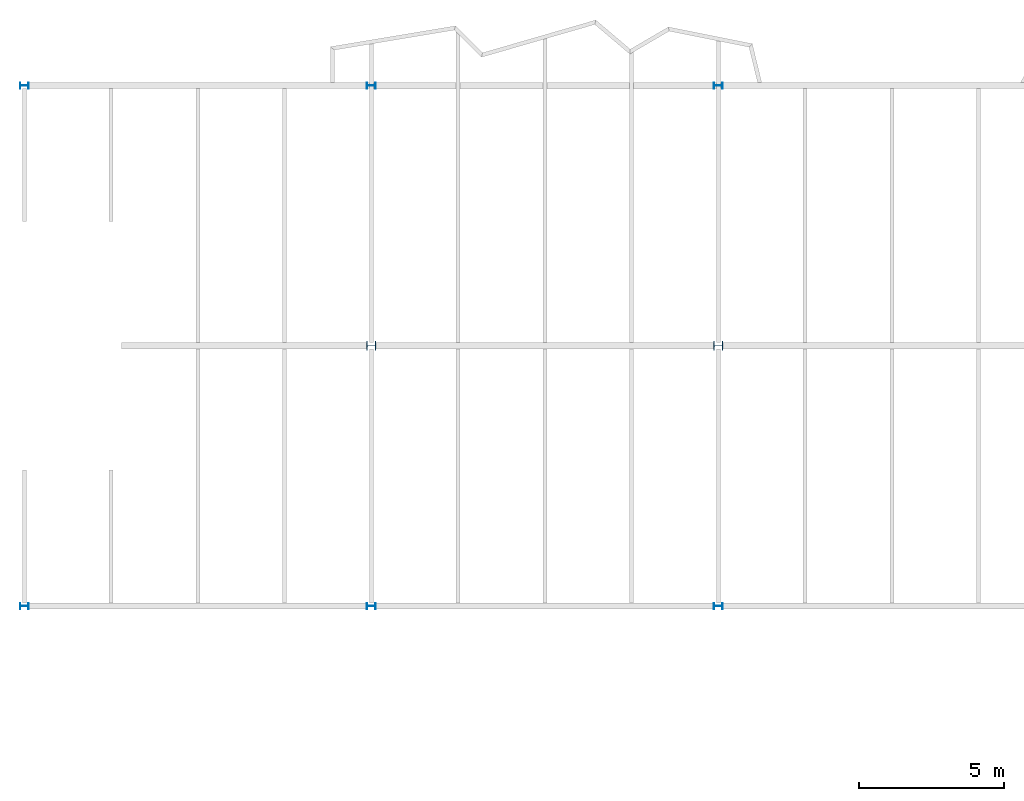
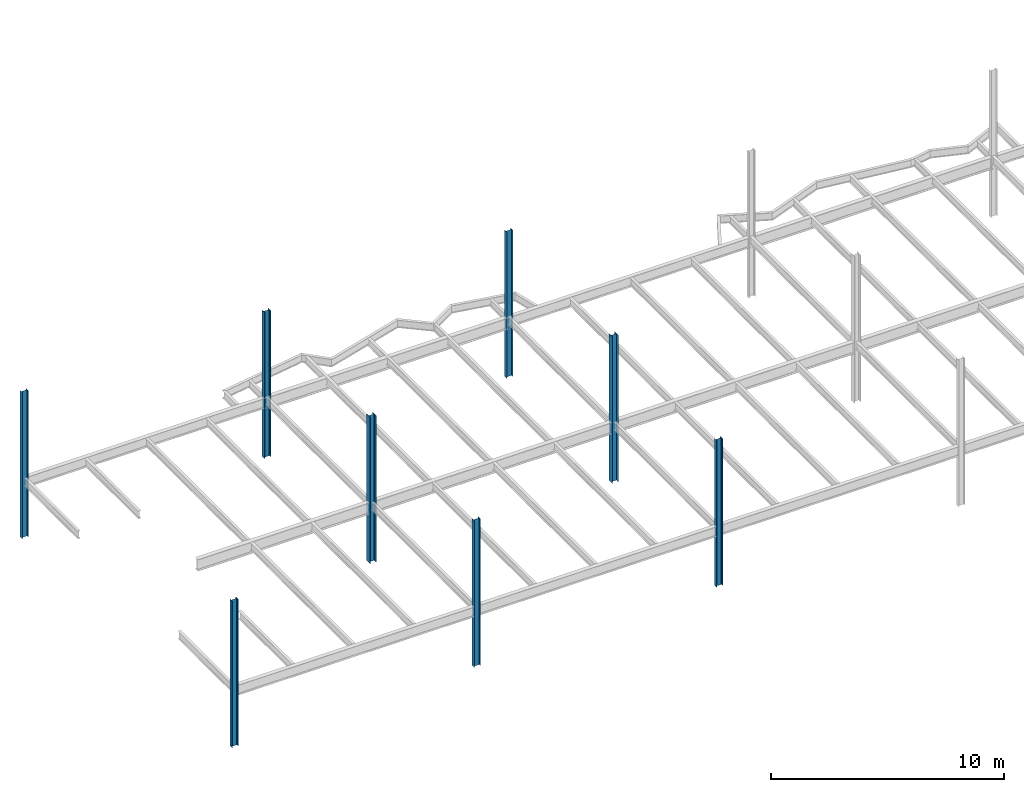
# One storey, part 1 of 23: 8 columns.
"""IFC2X3 building model written with IfcOpenShell, lengths in millimetres."""

import ifcopenshell
import ifcopenshell.guid

model = None  # the IFC model being written
_history = None  # IfcOwnerHistory: only IFC2X3 demands one
_inside = {}  # id of a spatial element -> (the spatial element, [elements in it])
_under = {}  # id of a project, library or spatial element -> (it, [spatial elements below it])
_declared = {}  # id of a project -> (the project, [libraries it declares])
_typed = {}  # id of a type object -> (the type object, [elements of that type])
_made_of = {}  # id of a material, layer set ... -> (it, [elements and type objects made of it])


def new_model(schema):
    """Start an empty IFC model of exactly this schema.

    Asked for "IFC4X3", IfcOpenShell would pick the latest addendum, in which some entities
    have other attributes; the version numbers below select the first issue.
    IFC2X3 requires an IfcOwnerHistory on every rooted entity: one is made here for all.
    """
    global model, _history
    if schema == "IFC4X3":
        model = ifcopenshell.file(schema_version=(4, 3, 0, 0))
    else:
        model = ifcopenshell.file(schema=schema)
    _inside.clear()
    _under.clear()
    _declared.clear()
    _typed.clear()
    _made_of.clear()
    _history = None
    if model.schema == "IFC2X3":
        org = make("IfcOrganization", Name="unknown")
        user = make(
            "IfcPersonAndOrganization",
            ThePerson=make("IfcPerson", FamilyName="unknown"),
            TheOrganization=org,
        )
        app = make(
            "IfcApplication",
            ApplicationDeveloper=org,
            Version="unknown",
            ApplicationFullName="unknown",
            ApplicationIdentifier="unknown",
        )
        _history = make(
            "IfcOwnerHistory",
            OwningUser=user,
            OwningApplication=app,
            ChangeAction="ADDED",
            CreationDate=0,
        )
    return model


def make(cls, **values):
    """One entity of the class cls with the attributes given. An attribute that is None is left unset."""
    return model.create_entity(
        cls, **{name: value for name, value in values.items() if value is not None}
    )


def rooted(cls, **values):
    """An entity with a GlobalId (a new one), such as an element, a storey or a relation."""
    return make(cls, GlobalId=ifcopenshell.guid.new(), OwnerHistory=_history, **values)


def si_unit(unit_type, name, prefix=None):
    """IfcSIUnit, for example si_unit("LENGTHUNIT", "METRE", prefix="MILLI")."""
    return make("IfcSIUnit", UnitType=unit_type, Prefix=prefix, Name=name)


def assignment(units):
    """IfcUnitAssignment: the units of a project."""
    return None if units is None else make("IfcUnitAssignment", Units=units)


def point(xyz):
    """IfcCartesianPoint."""
    return None if xyz is None else make("IfcCartesianPoint", Coordinates=xyz)


def direction(xyz):
    """IfcDirection."""
    return None if xyz is None else make("IfcDirection", DirectionRatios=xyz)


def frame(location, z_axis=None, x_axis=None):
    """IfcAxis2Placement3D, a coordinate frame: its origin and axes. An axis left out is left unset."""
    return make(
        "IfcAxis2Placement3D",
        Location=point(location),
        Axis=direction(z_axis),
        RefDirection=direction(x_axis),
    )


def origin():
    """The frame at (0, 0, 0) with its axes left unset."""
    return frame((0.0, 0.0, 0.0))


def place(relative_to, where):
    """IfcLocalPlacement: puts the frame where relative to a parent placement (None: the world)."""
    return make(
        "IfcLocalPlacement", PlacementRelTo=relative_to, RelativePlacement=where
    )


def context(
    kind, dimensions, precision=None, world=None, true_north=None, identifier=None
):
    """IfcGeometricRepresentationContext, for example the 3D "Model" context."""
    return make(
        "IfcGeometricRepresentationContext",
        ContextIdentifier=identifier,
        ContextType=kind,
        CoordinateSpaceDimension=dimensions,
        Precision=precision,
        WorldCoordinateSystem=world,
        TrueNorth=true_north,
    )


def project(units=None, contexts=None):
    """IfcProject with its units and contexts."""
    return rooted(
        "IfcProject",
        Name="project",
        RepresentationContexts=contexts,
        UnitsInContext=assignment(units),
    )


def spatial(cls, under=None, at=None, **own):
    """A site, building, storey or space (cls), placed at a placement, below another one or the project."""
    s = rooted(cls, ObjectPlacement=at, **own)
    if under is not None:
        _under.setdefault(under.id(), (under, []))[1].append(s)
    return s


def faces_of(points, faces, orient=None, outer=None):
    """IfcFace entities. A face is a list of loops; a loop is a list of indices into points, from 0.

    orient and outer hold one flag for each loop. By default every Orientation is true, the
    first loop of a face is its IfcFaceOuterBound and the others are IfcFaceBound.
    """
    made = []
    for i, loops in enumerate(faces):
        bounds = []
        for j, loop in enumerate(loops):
            is_outer = j == 0 if outer is None else outer[i][j]
            bounds.append(
                make(
                    "IfcFaceOuterBound" if is_outer else "IfcFaceBound",
                    Bound=make("IfcPolyLoop", Polygon=[points[k] for k in loop]),
                    Orientation=True if orient is None else orient[i][j],
                )
            )
        made.append(make("IfcFace", Bounds=bounds))
    return made


def faceted_brep(points, faces, orient=None, outer=None, voids=None):
    """IfcFacetedBrep: a solid bounded by flat faces; with voids (closed shells), ...WithVoids."""
    shared = [point(p) for p in points]
    hull = make("IfcClosedShell", CfsFaces=faces_of(shared, faces, orient, outer))
    if voids is None:
        return make("IfcFacetedBrep", Outer=hull)
    return make(
        "IfcFacetedBrepWithVoids",
        Outer=hull,
        Voids=[
            make(cls, CfsFaces=faces_of(shared, fs, o, b)) for cls, fs, o, b in voids
        ],
    )


def shape(context_of_items, identifier, shape_type, items):
    """IfcShapeRepresentation: the items that make up one representation, for example the "Body"."""
    return make(
        "IfcShapeRepresentation",
        ContextOfItems=context_of_items,
        RepresentationIdentifier=identifier,
        RepresentationType=shape_type,
        Items=items,
    )


def material(Name=None, Category=None):
    """IfcMaterial."""
    return make("IfcMaterial", Name=Name, Category=Category)


def made_of(thing, what):
    """Note that an element or type object is made of a material, layer set ...; save() writes the relation."""
    if what is not None:
        _made_of.setdefault(what.id(), (what, []))[1].append(thing)
    return thing


def element(
    cls,
    number,
    at=None,
    inside=None,
    cuts=None,
    type_object=None,
    material=None,
    context=None,
    identifier="Body",
    shape_type=None,
    held_by="IfcProductDefinitionShape",
    body=None,
    shapes=None,
    **own,
):
    """One element of the class cls, such as IfcWall. Its Tag is "e" and its number.

    at: its placement. inside: the storey or other place that contains it. cuts: it is an
    opening in that element (IfcRelVoidsElement). A single representation is given by context,
    identifier, shape_type and body (its items); several are given by shapes. held_by: the class
    of the entity that holds the representations. save() writes the other relations.
    """
    e = rooted(cls, Tag="e%d" % number, ObjectPlacement=at, **own)
    if body is not None:
        shapes = [shape(context, identifier, shape_type, body)]
    if shapes is not None:
        e.Representation = make(held_by, Representations=shapes)
    if inside is not None:
        _inside.setdefault(inside.id(), (inside, []))[1].append(e)
    if cuts is not None:
        rooted(
            "IfcRelVoidsElement", RelatingBuildingElement=cuts, RelatedOpeningElement=e
        )
    if type_object is not None:
        _typed.setdefault(type_object.id(), (type_object, []))[1].append(e)
    return made_of(e, material)


def aggregate(whole, parts):
    """IfcRelAggregates: a whole, such as a stair, and the parts it consists of."""
    return rooted("IfcRelAggregates", RelatingObject=whole, RelatedObjects=parts)


def save(model, path):
    """Write the relations noted so far, then the file.

    IfcRelAggregates (storeys below a building ...), IfcRelContainedInSpatialStructure (elements
    in a storey), IfcRelDefinesByType, IfcRelAssociatesMaterial and IfcRelDeclares: one each for
    every whole, place, type object, material and project.
    """
    for whole, parts in _under.values():
        aggregate(whole, parts)
    for where, things in _inside.values():
        rooted(
            "IfcRelContainedInSpatialStructure",
            RelatedElements=things,
            RelatingStructure=where,
        )
    for kind, things in _typed.values():
        rooted("IfcRelDefinesByType", RelatedObjects=things, RelatingType=kind)
    for what, things in _made_of.values():
        rooted("IfcRelAssociatesMaterial", RelatedObjects=things, RelatingMaterial=what)
    for by, libraries in _declared.values():
        rooted("IfcRelDeclares", RelatingContext=by, RelatedDefinitions=libraries)
    model.write(path)


model = new_model("IFC2X3")

# Units and contexts
context_of_model = context(None, 3, precision=1e-05, world=origin())
ifc_project = project(units=[si_unit("LENGTHUNIT", "METRE", prefix="MILLI")], contexts=[context_of_model])

# Building, storey
building = spatial("IfcBuilding", under=ifc_project, Name="Building", CompositionType="ELEMENT")
storey = spatial("IfcBuildingStorey", under=building, Name="FL5-FRM", CompositionType="ELEMENT")

# Columns
ifc_material_1 = material(Name="A992")
column_1_placement = place(None, origin())
element("IfcColumn", 1, at=column_1_placement, inside=storey, material=ifc_material_1, Name="Column46", context=context_of_model, shape_type="Brep", body=[
    faceted_brep([(-47847.0, 35898.0, 14719.2), (-47847.0, 36102.0, 14719.2), (-47847.0, 36102.0, 22373.0), (-47847.0, 35898.0, 22373.0), (-47861.6, 36102.0, 14719.2), (-47861.6, 36102.0, 22373.0), (-47861.6, 36016.9, 14719.2), (-47861.6, 36016.9, 22373.0), (-47862.0, 36013.7, 14719.2), (-47862.0, 36013.7, 22373.0), (-47863.3, 36010.6, 14719.2), (-47863.3, 36010.6, 22373.0), (-47865.3, 36008.0, 14719.2), (-47865.3, 36008.0, 22373.0), (-47868.0, 36006.0, 14719.2), (-47868.0, 36006.0, 22373.0), (-47871.0, 36004.7, 14719.2), (-47871.0, 36004.7, 22373.0), (-47874.3, 36004.3, 14719.2), (-47874.3, 36004.3, 22373.0), (-48125.7, 36004.3, 14719.2), (-48125.7, 36004.3, 22373.0), (-48129.0, 36004.7, 14719.2), (-48129.0, 36004.7, 22373.0), (-48132.0, 36006.0, 14719.2), (-48132.0, 36006.0, 22373.0), (-48134.7, 36008.0, 14719.2), (-48134.7, 36008.0, 22373.0), (-48136.7, 36010.6, 14719.2), (-48136.7, 36010.6, 22373.0), (-48138.0, 36013.7, 14719.2), (-48138.0, 36013.7, 22373.0), (-48138.4, 36016.9, 14719.2), (-48138.4, 36016.9, 22373.0), (-48138.4, 36102.0, 14719.2), (-48138.4, 36102.0, 22373.0), (-48153.0, 36102.0, 14719.2), (-48153.0, 36102.0, 22373.0), (-48153.0, 35898.0, 14719.2), (-48153.0, 35898.0, 22373.0), (-48138.4, 35898.0, 14719.2), (-48138.4, 35898.0, 22373.0), (-48138.4, 35983.1, 14719.2), (-48138.4, 35983.1, 22373.0), (-48138.0, 35986.3, 14719.2), (-48138.0, 35986.3, 22373.0), (-48136.7, 35989.4, 14719.2), (-48136.7, 35989.4, 22373.0), (-48134.7, 35992.0, 14719.2), (-48134.7, 35992.0, 22373.0), (-48132.0, 35994.0, 14719.2), (-48132.0, 35994.0, 22373.0), (-48129.0, 35995.3, 14719.2), (-48129.0, 35995.3, 22373.0), (-48125.7, 35995.8, 14719.2), (-48125.7, 35995.8, 22373.0), (-47874.3, 35995.8, 14719.2), (-47874.3, 35995.8, 22373.0), (-47871.0, 35995.3, 14719.2), (-47871.0, 35995.3, 22373.0), (-47868.0, 35994.0, 14719.2), (-47868.0, 35994.0, 22373.0), (-47865.3, 35992.0, 14719.2), (-47865.3, 35992.0, 22373.0), (-47863.3, 35989.4, 14719.2), (-47863.3, 35989.4, 22373.0), (-47862.0, 35986.3, 14719.2), (-47862.0, 35986.3, 22373.0), (-47861.6, 35983.1, 14719.2), (-47861.6, 35983.1, 22373.0), (-47861.6, 35898.0, 14719.2), (-47861.6, 35898.0, 22373.0)], [[[0, 1, 2, 3]], [[1, 4, 5, 2]], [[4, 6, 7, 5]], [[6, 8, 9, 7]], [[8, 10, 11, 9]], [[10, 12, 13, 11]], [[12, 14, 15, 13]], [[14, 16, 17, 15]], [[16, 18, 19, 17]], [[18, 20, 21, 19]], [[20, 22, 23, 21]], [[22, 24, 25, 23]], [[24, 26, 27, 25]], [[26, 28, 29, 27]], [[28, 30, 31, 29]], [[30, 32, 33, 31]], [[32, 34, 35, 33]], [[34, 36, 37, 35]], [[36, 38, 39, 37]], [[38, 40, 41, 39]], [[40, 42, 43, 41]], [[42, 44, 45, 43]], [[44, 46, 47, 45]], [[46, 48, 49, 47]], [[48, 50, 51, 49]], [[50, 52, 53, 51]], [[52, 54, 55, 53]], [[54, 56, 57, 55]], [[56, 58, 59, 57]], [[58, 60, 61, 59]], [[60, 62, 63, 61]], [[62, 64, 65, 63]], [[64, 66, 67, 65]], [[66, 68, 69, 67]], [[68, 70, 71, 69]], [[70, 0, 3, 71]], [[0, 70, 68, 66, 64, 62, 60, 58, 56, 54, 52, 50, 48, 46, 44, 42, 40, 38, 36, 34, 32, 30, 28, 26, 24, 22, 20, 18, 16, 14, 12, 10, 8, 6, 4, 1]], [[3, 2, 5, 7, 9, 11, 13, 15, 17, 19, 21, 23, 25, 27, 29, 31, 33, 35, 37, 39, 41, 43, 45, 47, 49, 51, 53, 55, 57, 59, 61, 63, 65, 67, 69, 71]]]),
])
ifc_material_2 = material(Name="A992")
column_2_placement = place(None, origin())
element("IfcColumn", 2, at=column_2_placement, inside=storey, material=ifc_material_2, Name="Column273", context=context_of_model, shape_type="Brep", body=[
    faceted_brep([(-47846.0, 26847.5, 14694.2), (-47846.0, 27152.5, 14694.2), (-47846.0, 27152.5, 22373.0), (-47846.0, 26847.5, 22373.0), (-47861.4, 27152.5, 14694.2), (-47861.4, 27152.5, 22373.0), (-47861.4, 27020.1, 14694.2), (-47861.4, 27020.1, 22373.0), (-47861.9, 27016.2, 14694.2), (-47861.9, 27016.2, 22373.0), (-47863.4, 27012.5, 14694.2), (-47863.4, 27012.5, 22373.0), (-47865.9, 27009.4, 14694.2), (-47865.9, 27009.4, 22373.0), (-47869.0, 27007.0, 14694.2), (-47869.0, 27007.0, 22373.0), (-47872.7, 27005.5, 14694.2), (-47872.7, 27005.5, 22373.0), (-47876.6, 27004.9, 14694.2), (-47876.6, 27004.9, 22373.0), (-48123.4, 27004.9, 14694.2), (-48123.4, 27004.9, 22373.0), (-48127.3, 27005.5, 14694.2), (-48127.3, 27005.5, 22373.0), (-48131.0, 27007.0, 14694.2), (-48131.0, 27007.0, 22373.0), (-48134.1, 27009.4, 14694.2), (-48134.1, 27009.4, 22373.0), (-48136.6, 27012.5, 14694.2), (-48136.6, 27012.5, 22373.0), (-48138.1, 27016.2, 14694.2), (-48138.1, 27016.2, 22373.0), (-48138.6, 27020.1, 14694.2), (-48138.6, 27020.1, 22373.0), (-48138.6, 27152.5, 14694.2), (-48138.6, 27152.5, 22373.0), (-48154.0, 27152.5, 14694.2), (-48154.0, 27152.5, 22373.0), (-48154.0, 26847.5, 14694.2), (-48154.0, 26847.5, 22373.0), (-48138.6, 26847.5, 14694.2), (-48138.6, 26847.5, 22373.0), (-48138.6, 26979.9, 14694.2), (-48138.6, 26979.9, 22373.0), (-48138.1, 26983.8, 14694.2), (-48138.1, 26983.8, 22373.0), (-48136.6, 26987.5, 14694.2), (-48136.6, 26987.5, 22373.0), (-48134.1, 26990.6, 14694.2), (-48134.1, 26990.6, 22373.0), (-48131.0, 26993.0, 14694.2), (-48131.0, 26993.0, 22373.0), (-48127.3, 26994.5, 14694.2), (-48127.3, 26994.5, 22373.0), (-48123.4, 26995.1, 14694.2), (-48123.4, 26995.1, 22373.0), (-47876.6, 26995.1, 14694.2), (-47876.6, 26995.1, 22373.0), (-47872.7, 26994.5, 14694.2), (-47872.7, 26994.5, 22373.0), (-47869.0, 26993.0, 14694.2), (-47869.0, 26993.0, 22373.0), (-47865.9, 26990.6, 14694.2), (-47865.9, 26990.6, 22373.0), (-47863.4, 26987.5, 14694.2), (-47863.4, 26987.5, 22373.0), (-47861.9, 26983.8, 14694.2), (-47861.9, 26983.8, 22373.0), (-47861.4, 26979.9, 14694.2), (-47861.4, 26979.9, 22373.0), (-47861.4, 26847.5, 14694.2), (-47861.4, 26847.5, 22373.0)], [[[0, 1, 2, 3]], [[1, 4, 5, 2]], [[4, 6, 7, 5]], [[6, 8, 9, 7]], [[8, 10, 11, 9]], [[10, 12, 13, 11]], [[12, 14, 15, 13]], [[14, 16, 17, 15]], [[16, 18, 19, 17]], [[18, 20, 21, 19]], [[20, 22, 23, 21]], [[22, 24, 25, 23]], [[24, 26, 27, 25]], [[26, 28, 29, 27]], [[28, 30, 31, 29]], [[30, 32, 33, 31]], [[32, 34, 35, 33]], [[34, 36, 37, 35]], [[36, 38, 39, 37]], [[38, 40, 41, 39]], [[40, 42, 43, 41]], [[42, 44, 45, 43]], [[44, 46, 47, 45]], [[46, 48, 49, 47]], [[48, 50, 51, 49]], [[50, 52, 53, 51]], [[52, 54, 55, 53]], [[54, 56, 57, 55]], [[56, 58, 59, 57]], [[58, 60, 61, 59]], [[60, 62, 63, 61]], [[62, 64, 65, 63]], [[64, 66, 67, 65]], [[66, 68, 69, 67]], [[68, 70, 71, 69]], [[70, 0, 3, 71]], [[0, 70, 68, 66, 64, 62, 60, 58, 56, 54, 52, 50, 48, 46, 44, 42, 40, 38, 36, 34, 32, 30, 28, 26, 24, 22, 20, 18, 16, 14, 12, 10, 8, 6, 4, 1]], [[3, 2, 5, 7, 9, 11, 13, 15, 17, 19, 21, 23, 25, 27, 29, 31, 33, 35, 37, 39, 41, 43, 45, 47, 49, 51, 53, 55, 57, 59, 61, 63, 65, 67, 69, 71]]]),
])
ifc_material_3 = material(Name="A992")
column_3_placement = place(None, origin())
element("IfcColumn", 3, at=column_3_placement, inside=storey, material=ifc_material_3, Name="Column275", context=context_of_model, shape_type="Brep", body=[
    faceted_brep([(-47847.0, 17898.0, 14694.2), (-47847.0, 18102.0, 14694.2), (-47847.0, 18102.0, 22373.0), (-47847.0, 17898.0, 22373.0), (-47861.6, 18102.0, 14694.2), (-47861.6, 18102.0, 22373.0), (-47861.6, 18016.9, 14694.2), (-47861.6, 18016.9, 22373.0), (-47862.0, 18013.7, 14694.2), (-47862.0, 18013.7, 22373.0), (-47863.3, 18010.6, 14694.2), (-47863.3, 18010.6, 22373.0), (-47865.3, 18008.0, 14694.2), (-47865.3, 18008.0, 22373.0), (-47868.0, 18006.0, 14694.2), (-47868.0, 18006.0, 22373.0), (-47871.0, 18004.7, 14694.2), (-47871.0, 18004.7, 22373.0), (-47874.3, 18004.3, 14694.2), (-47874.3, 18004.3, 22373.0), (-48125.7, 18004.3, 14694.2), (-48125.7, 18004.3, 22373.0), (-48129.0, 18004.7, 14694.2), (-48129.0, 18004.7, 22373.0), (-48132.0, 18006.0, 14694.2), (-48132.0, 18006.0, 22373.0), (-48134.7, 18008.0, 14694.2), (-48134.7, 18008.0, 22373.0), (-48136.7, 18010.6, 14694.2), (-48136.7, 18010.6, 22373.0), (-48138.0, 18013.7, 14694.2), (-48138.0, 18013.7, 22373.0), (-48138.4, 18016.9, 14694.2), (-48138.4, 18016.9, 22373.0), (-48138.4, 18102.0, 14694.2), (-48138.4, 18102.0, 22373.0), (-48153.0, 18102.0, 14694.2), (-48153.0, 18102.0, 22373.0), (-48153.0, 17898.0, 14694.2), (-48153.0, 17898.0, 22373.0), (-48138.4, 17898.0, 14694.2), (-48138.4, 17898.0, 22373.0), (-48138.4, 17983.1, 14694.2), (-48138.4, 17983.1, 22373.0), (-48138.0, 17986.3, 14694.2), (-48138.0, 17986.3, 22373.0), (-48136.7, 17989.4, 14694.2), (-48136.7, 17989.4, 22373.0), (-48134.7, 17992.0, 14694.2), (-48134.7, 17992.0, 22373.0), (-48132.0, 17994.0, 14694.2), (-48132.0, 17994.0, 22373.0), (-48129.0, 17995.3, 14694.2), (-48129.0, 17995.3, 22373.0), (-48125.7, 17995.8, 14694.2), (-48125.7, 17995.8, 22373.0), (-47874.3, 17995.8, 14694.2), (-47874.3, 17995.8, 22373.0), (-47871.0, 17995.3, 14694.2), (-47871.0, 17995.3, 22373.0), (-47868.0, 17994.0, 14694.2), (-47868.0, 17994.0, 22373.0), (-47865.3, 17992.0, 14694.2), (-47865.3, 17992.0, 22373.0), (-47863.3, 17989.4, 14694.2), (-47863.3, 17989.4, 22373.0), (-47862.0, 17986.3, 14694.2), (-47862.0, 17986.3, 22373.0), (-47861.6, 17983.1, 14694.2), (-47861.6, 17983.1, 22373.0), (-47861.6, 17898.0, 14694.2), (-47861.6, 17898.0, 22373.0)], [[[0, 1, 2, 3]], [[1, 4, 5, 2]], [[4, 6, 7, 5]], [[6, 8, 9, 7]], [[8, 10, 11, 9]], [[10, 12, 13, 11]], [[12, 14, 15, 13]], [[14, 16, 17, 15]], [[16, 18, 19, 17]], [[18, 20, 21, 19]], [[20, 22, 23, 21]], [[22, 24, 25, 23]], [[24, 26, 27, 25]], [[26, 28, 29, 27]], [[28, 30, 31, 29]], [[30, 32, 33, 31]], [[32, 34, 35, 33]], [[34, 36, 37, 35]], [[36, 38, 39, 37]], [[38, 40, 41, 39]], [[40, 42, 43, 41]], [[42, 44, 45, 43]], [[44, 46, 47, 45]], [[46, 48, 49, 47]], [[48, 50, 51, 49]], [[50, 52, 53, 51]], [[52, 54, 55, 53]], [[54, 56, 57, 55]], [[56, 58, 59, 57]], [[58, 60, 61, 59]], [[60, 62, 63, 61]], [[62, 64, 65, 63]], [[64, 66, 67, 65]], [[66, 68, 69, 67]], [[68, 70, 71, 69]], [[70, 0, 3, 71]], [[0, 70, 68, 66, 64, 62, 60, 58, 56, 54, 52, 50, 48, 46, 44, 42, 40, 38, 36, 34, 32, 30, 28, 26, 24, 22, 20, 18, 16, 14, 12, 10, 8, 6, 4, 1]], [[3, 2, 5, 7, 9, 11, 13, 15, 17, 19, 21, 23, 25, 27, 29, 31, 33, 35, 37, 39, 41, 43, 45, 47, 49, 51, 53, 55, 57, 59, 61, 63, 65, 67, 69, 71]]]),
])
ifc_material_4 = material(Name="A992")
column_4_placement = place(None, origin())
element("IfcColumn", 4, at=column_4_placement, inside=storey, material=ifc_material_4, Name="Column277", context=context_of_model, shape_type="Brep", body=[
    faceted_brep([(-35847.0, 35898.0, 14719.2), (-35847.0, 36102.0, 14719.2), (-35847.0, 36102.0, 22373.0), (-35847.0, 35898.0, 22373.0), (-35861.6, 36102.0, 14719.2), (-35861.6, 36102.0, 22373.0), (-35861.6, 36016.9, 14719.2), (-35861.6, 36016.9, 22373.0), (-35862.0, 36013.7, 14719.2), (-35862.0, 36013.7, 22373.0), (-35863.3, 36010.6, 14719.2), (-35863.3, 36010.6, 22373.0), (-35865.3, 36008.0, 14719.2), (-35865.3, 36008.0, 22373.0), (-35868.0, 36006.0, 14719.2), (-35868.0, 36006.0, 22373.0), (-35871.0, 36004.7, 14719.2), (-35871.0, 36004.7, 22373.0), (-35874.3, 36004.3, 14719.2), (-35874.3, 36004.3, 22373.0), (-36125.7, 36004.3, 14719.2), (-36125.7, 36004.3, 22373.0), (-36129.0, 36004.7, 14719.2), (-36129.0, 36004.7, 22373.0), (-36132.0, 36006.0, 14719.2), (-36132.0, 36006.0, 22373.0), (-36134.7, 36008.0, 14719.2), (-36134.7, 36008.0, 22373.0), (-36136.7, 36010.6, 14719.2), (-36136.7, 36010.6, 22373.0), (-36138.0, 36013.7, 14719.2), (-36138.0, 36013.7, 22373.0), (-36138.4, 36016.9, 14719.2), (-36138.4, 36016.9, 22373.0), (-36138.4, 36102.0, 14719.2), (-36138.4, 36102.0, 22373.0), (-36153.0, 36102.0, 14719.2), (-36153.0, 36102.0, 22373.0), (-36153.0, 35898.0, 14719.2), (-36153.0, 35898.0, 22373.0), (-36138.4, 35898.0, 14719.2), (-36138.4, 35898.0, 22373.0), (-36138.4, 35983.1, 14719.2), (-36138.4, 35983.1, 22373.0), (-36138.0, 35986.3, 14719.2), (-36138.0, 35986.3, 22373.0), (-36136.7, 35989.4, 14719.2), (-36136.7, 35989.4, 22373.0), (-36134.7, 35992.0, 14719.2), (-36134.7, 35992.0, 22373.0), (-36132.0, 35994.0, 14719.2), (-36132.0, 35994.0, 22373.0), (-36129.0, 35995.3, 14719.2), (-36129.0, 35995.3, 22373.0), (-36125.7, 35995.8, 14719.2), (-36125.7, 35995.8, 22373.0), (-35874.3, 35995.8, 14719.2), (-35874.3, 35995.8, 22373.0), (-35871.0, 35995.3, 14719.2), (-35871.0, 35995.3, 22373.0), (-35868.0, 35994.0, 14719.2), (-35868.0, 35994.0, 22373.0), (-35865.3, 35992.0, 14719.2), (-35865.3, 35992.0, 22373.0), (-35863.3, 35989.4, 14719.2), (-35863.3, 35989.4, 22373.0), (-35862.0, 35986.3, 14719.2), (-35862.0, 35986.3, 22373.0), (-35861.6, 35983.1, 14719.2), (-35861.6, 35983.1, 22373.0), (-35861.6, 35898.0, 14719.2), (-35861.6, 35898.0, 22373.0)], [[[0, 1, 2, 3]], [[1, 4, 5, 2]], [[4, 6, 7, 5]], [[6, 8, 9, 7]], [[8, 10, 11, 9]], [[10, 12, 13, 11]], [[12, 14, 15, 13]], [[14, 16, 17, 15]], [[16, 18, 19, 17]], [[18, 20, 21, 19]], [[20, 22, 23, 21]], [[22, 24, 25, 23]], [[24, 26, 27, 25]], [[26, 28, 29, 27]], [[28, 30, 31, 29]], [[30, 32, 33, 31]], [[32, 34, 35, 33]], [[34, 36, 37, 35]], [[36, 38, 39, 37]], [[38, 40, 41, 39]], [[40, 42, 43, 41]], [[42, 44, 45, 43]], [[44, 46, 47, 45]], [[46, 48, 49, 47]], [[48, 50, 51, 49]], [[50, 52, 53, 51]], [[52, 54, 55, 53]], [[54, 56, 57, 55]], [[56, 58, 59, 57]], [[58, 60, 61, 59]], [[60, 62, 63, 61]], [[62, 64, 65, 63]], [[64, 66, 67, 65]], [[66, 68, 69, 67]], [[68, 70, 71, 69]], [[70, 0, 3, 71]], [[0, 70, 68, 66, 64, 62, 60, 58, 56, 54, 52, 50, 48, 46, 44, 42, 40, 38, 36, 34, 32, 30, 28, 26, 24, 22, 20, 18, 16, 14, 12, 10, 8, 6, 4, 1]], [[3, 2, 5, 7, 9, 11, 13, 15, 17, 19, 21, 23, 25, 27, 29, 31, 33, 35, 37, 39, 41, 43, 45, 47, 49, 51, 53, 55, 57, 59, 61, 63, 65, 67, 69, 71]]]),
])
ifc_material_5 = material(Name="A992")
column_5_placement = place(None, origin())
element("IfcColumn", 5, at=column_5_placement, inside=storey, material=ifc_material_5, Name="Column279", context=context_of_model, shape_type="Brep", body=[
    faceted_brep([(-35846.0, 26847.5, 14694.2), (-35846.0, 27152.5, 14694.2), (-35846.0, 27152.5, 22373.0), (-35846.0, 26847.5, 22373.0), (-35861.4, 27152.5, 14694.2), (-35861.4, 27152.5, 22373.0), (-35861.4, 27020.1, 14694.2), (-35861.4, 27020.1, 22373.0), (-35861.9, 27016.2, 14694.2), (-35861.9, 27016.2, 22373.0), (-35863.4, 27012.5, 14694.2), (-35863.4, 27012.5, 22373.0), (-35865.9, 27009.4, 14694.2), (-35865.9, 27009.4, 22373.0), (-35869.0, 27007.0, 14694.2), (-35869.0, 27007.0, 22373.0), (-35872.7, 27005.5, 14694.2), (-35872.7, 27005.5, 22373.0), (-35876.6, 27004.9, 14694.2), (-35876.6, 27004.9, 22373.0), (-36123.4, 27004.9, 14694.2), (-36123.4, 27004.9, 22373.0), (-36127.3, 27005.5, 14694.2), (-36127.3, 27005.5, 22373.0), (-36131.0, 27007.0, 14694.2), (-36131.0, 27007.0, 22373.0), (-36134.1, 27009.4, 14694.2), (-36134.1, 27009.4, 22373.0), (-36136.6, 27012.5, 14694.2), (-36136.6, 27012.5, 22373.0), (-36138.1, 27016.2, 14694.2), (-36138.1, 27016.2, 22373.0), (-36138.6, 27020.1, 14694.2), (-36138.6, 27020.1, 22373.0), (-36138.6, 27152.5, 14694.2), (-36138.6, 27152.5, 22373.0), (-36154.0, 27152.5, 14694.2), (-36154.0, 27152.5, 22373.0), (-36154.0, 26847.5, 14694.2), (-36154.0, 26847.5, 22373.0), (-36138.6, 26847.5, 14694.2), (-36138.6, 26847.5, 22373.0), (-36138.6, 26979.9, 14694.2), (-36138.6, 26979.9, 22373.0), (-36138.1, 26983.8, 14694.2), (-36138.1, 26983.8, 22373.0), (-36136.6, 26987.5, 14694.2), (-36136.6, 26987.5, 22373.0), (-36134.1, 26990.6, 14694.2), (-36134.1, 26990.6, 22373.0), (-36131.0, 26993.0, 14694.2), (-36131.0, 26993.0, 22373.0), (-36127.3, 26994.5, 14694.2), (-36127.3, 26994.5, 22373.0), (-36123.4, 26995.1, 14694.2), (-36123.4, 26995.1, 22373.0), (-35876.6, 26995.1, 14694.2), (-35876.6, 26995.1, 22373.0), (-35872.7, 26994.5, 14694.2), (-35872.7, 26994.5, 22373.0), (-35869.0, 26993.0, 14694.2), (-35869.0, 26993.0, 22373.0), (-35865.9, 26990.6, 14694.2), (-35865.9, 26990.6, 22373.0), (-35863.4, 26987.5, 14694.2), (-35863.4, 26987.5, 22373.0), (-35861.9, 26983.8, 14694.2), (-35861.9, 26983.8, 22373.0), (-35861.4, 26979.9, 14694.2), (-35861.4, 26979.9, 22373.0), (-35861.4, 26847.5, 14694.2), (-35861.4, 26847.5, 22373.0)], [[[0, 1, 2, 3]], [[1, 4, 5, 2]], [[4, 6, 7, 5]], [[6, 8, 9, 7]], [[8, 10, 11, 9]], [[10, 12, 13, 11]], [[12, 14, 15, 13]], [[14, 16, 17, 15]], [[16, 18, 19, 17]], [[18, 20, 21, 19]], [[20, 22, 23, 21]], [[22, 24, 25, 23]], [[24, 26, 27, 25]], [[26, 28, 29, 27]], [[28, 30, 31, 29]], [[30, 32, 33, 31]], [[32, 34, 35, 33]], [[34, 36, 37, 35]], [[36, 38, 39, 37]], [[38, 40, 41, 39]], [[40, 42, 43, 41]], [[42, 44, 45, 43]], [[44, 46, 47, 45]], [[46, 48, 49, 47]], [[48, 50, 51, 49]], [[50, 52, 53, 51]], [[52, 54, 55, 53]], [[54, 56, 57, 55]], [[56, 58, 59, 57]], [[58, 60, 61, 59]], [[60, 62, 63, 61]], [[62, 64, 65, 63]], [[64, 66, 67, 65]], [[66, 68, 69, 67]], [[68, 70, 71, 69]], [[70, 0, 3, 71]], [[0, 70, 68, 66, 64, 62, 60, 58, 56, 54, 52, 50, 48, 46, 44, 42, 40, 38, 36, 34, 32, 30, 28, 26, 24, 22, 20, 18, 16, 14, 12, 10, 8, 6, 4, 1]], [[3, 2, 5, 7, 9, 11, 13, 15, 17, 19, 21, 23, 25, 27, 29, 31, 33, 35, 37, 39, 41, 43, 45, 47, 49, 51, 53, 55, 57, 59, 61, 63, 65, 67, 69, 71]]]),
])
ifc_material_6 = material(Name="A992")
column_6_placement = place(None, origin())
element("IfcColumn", 6, at=column_6_placement, inside=storey, material=ifc_material_6, Name="Column281", context=context_of_model, shape_type="Brep", body=[
    faceted_brep([(-35847.0, 17898.0, 14694.2), (-35847.0, 18102.0, 14694.2), (-35847.0, 18102.0, 22373.0), (-35847.0, 17898.0, 22373.0), (-35861.6, 18102.0, 14694.2), (-35861.6, 18102.0, 22373.0), (-35861.6, 18016.9, 14694.2), (-35861.6, 18016.9, 22373.0), (-35862.0, 18013.7, 14694.2), (-35862.0, 18013.7, 22373.0), (-35863.3, 18010.6, 14694.2), (-35863.3, 18010.6, 22373.0), (-35865.3, 18008.0, 14694.2), (-35865.3, 18008.0, 22373.0), (-35868.0, 18006.0, 14694.2), (-35868.0, 18006.0, 22373.0), (-35871.0, 18004.7, 14694.2), (-35871.0, 18004.7, 22373.0), (-35874.3, 18004.3, 14694.2), (-35874.3, 18004.3, 22373.0), (-36125.7, 18004.3, 14694.2), (-36125.7, 18004.3, 22373.0), (-36129.0, 18004.7, 14694.2), (-36129.0, 18004.7, 22373.0), (-36132.0, 18006.0, 14694.2), (-36132.0, 18006.0, 22373.0), (-36134.7, 18008.0, 14694.2), (-36134.7, 18008.0, 22373.0), (-36136.7, 18010.6, 14694.2), (-36136.7, 18010.6, 22373.0), (-36138.0, 18013.7, 14694.2), (-36138.0, 18013.7, 22373.0), (-36138.4, 18016.9, 14694.2), (-36138.4, 18016.9, 22373.0), (-36138.4, 18102.0, 14694.2), (-36138.4, 18102.0, 22373.0), (-36153.0, 18102.0, 14694.2), (-36153.0, 18102.0, 22373.0), (-36153.0, 17898.0, 14694.2), (-36153.0, 17898.0, 22373.0), (-36138.4, 17898.0, 14694.2), (-36138.4, 17898.0, 22373.0), (-36138.4, 17983.1, 14694.2), (-36138.4, 17983.1, 22373.0), (-36138.0, 17986.3, 14694.2), (-36138.0, 17986.3, 22373.0), (-36136.7, 17989.4, 14694.2), (-36136.7, 17989.4, 22373.0), (-36134.7, 17992.0, 14694.2), (-36134.7, 17992.0, 22373.0), (-36132.0, 17994.0, 14694.2), (-36132.0, 17994.0, 22373.0), (-36129.0, 17995.3, 14694.2), (-36129.0, 17995.3, 22373.0), (-36125.7, 17995.8, 14694.2), (-36125.7, 17995.8, 22373.0), (-35874.3, 17995.8, 14694.2), (-35874.3, 17995.8, 22373.0), (-35871.0, 17995.3, 14694.2), (-35871.0, 17995.3, 22373.0), (-35868.0, 17994.0, 14694.2), (-35868.0, 17994.0, 22373.0), (-35865.3, 17992.0, 14694.2), (-35865.3, 17992.0, 22373.0), (-35863.3, 17989.4, 14694.2), (-35863.3, 17989.4, 22373.0), (-35862.0, 17986.3, 14694.2), (-35862.0, 17986.3, 22373.0), (-35861.6, 17983.1, 14694.2), (-35861.6, 17983.1, 22373.0), (-35861.6, 17898.0, 14694.2), (-35861.6, 17898.0, 22373.0)], [[[0, 1, 2, 3]], [[1, 4, 5, 2]], [[4, 6, 7, 5]], [[6, 8, 9, 7]], [[8, 10, 11, 9]], [[10, 12, 13, 11]], [[12, 14, 15, 13]], [[14, 16, 17, 15]], [[16, 18, 19, 17]], [[18, 20, 21, 19]], [[20, 22, 23, 21]], [[22, 24, 25, 23]], [[24, 26, 27, 25]], [[26, 28, 29, 27]], [[28, 30, 31, 29]], [[30, 32, 33, 31]], [[32, 34, 35, 33]], [[34, 36, 37, 35]], [[36, 38, 39, 37]], [[38, 40, 41, 39]], [[40, 42, 43, 41]], [[42, 44, 45, 43]], [[44, 46, 47, 45]], [[46, 48, 49, 47]], [[48, 50, 51, 49]], [[50, 52, 53, 51]], [[52, 54, 55, 53]], [[54, 56, 57, 55]], [[56, 58, 59, 57]], [[58, 60, 61, 59]], [[60, 62, 63, 61]], [[62, 64, 65, 63]], [[64, 66, 67, 65]], [[66, 68, 69, 67]], [[68, 70, 71, 69]], [[70, 0, 3, 71]], [[0, 70, 68, 66, 64, 62, 60, 58, 56, 54, 52, 50, 48, 46, 44, 42, 40, 38, 36, 34, 32, 30, 28, 26, 24, 22, 20, 18, 16, 14, 12, 10, 8, 6, 4, 1]], [[3, 2, 5, 7, 9, 11, 13, 15, 17, 19, 21, 23, 25, 27, 29, 31, 33, 35, 37, 39, 41, 43, 45, 47, 49, 51, 53, 55, 57, 59, 61, 63, 65, 67, 69, 71]]]),
])
ifc_material_7 = material(Name="A992")
column_7_placement = place(None, origin())
element("IfcColumn", 7, at=column_7_placement, inside=storey, material=ifc_material_7, Name="Column295", context=context_of_model, shape_type="Brep", body=[
    faceted_brep([(-59848.5, 35898.5, 14719.2), (-59848.5, 36101.5, 14719.2), (-59848.5, 36101.5, 22373.0), (-59848.5, 35898.5, 22373.0), (-59861.6, 36101.5, 14719.2), (-59861.6, 36101.5, 22373.0), (-59861.6, 36016.4, 14719.2), (-59861.6, 36016.4, 22373.0), (-59862.0, 36013.2, 14719.2), (-59862.0, 36013.2, 22373.0), (-59863.3, 36010.1, 14719.2), (-59863.3, 36010.1, 22373.0), (-59865.3, 36007.5, 14719.2), (-59865.3, 36007.5, 22373.0), (-59868.0, 36005.5, 14719.2), (-59868.0, 36005.5, 22373.0), (-59871.0, 36004.2, 14719.2), (-59871.0, 36004.2, 22373.0), (-59874.3, 36003.8, 14719.2), (-59874.3, 36003.8, 22373.0), (-60125.7, 36003.8, 14719.2), (-60125.7, 36003.8, 22373.0), (-60129.0, 36004.2, 14719.2), (-60129.0, 36004.2, 22373.0), (-60132.0, 36005.5, 14719.2), (-60132.0, 36005.5, 22373.0), (-60134.7, 36007.5, 14719.2), (-60134.7, 36007.5, 22373.0), (-60136.7, 36010.1, 14719.2), (-60136.7, 36010.1, 22373.0), (-60138.0, 36013.2, 14719.2), (-60138.0, 36013.2, 22373.0), (-60138.4, 36016.4, 14719.2), (-60138.4, 36016.4, 22373.0), (-60138.4, 36101.5, 14719.2), (-60138.4, 36101.5, 22373.0), (-60151.5, 36101.5, 14719.2), (-60151.5, 36101.5, 22373.0), (-60151.5, 35898.5, 14719.2), (-60151.5, 35898.5, 22373.0), (-60138.4, 35898.5, 14719.2), (-60138.4, 35898.5, 22373.0), (-60138.4, 35983.6, 14719.2), (-60138.4, 35983.6, 22373.0), (-60138.0, 35986.8, 14719.2), (-60138.0, 35986.8, 22373.0), (-60136.7, 35989.9, 14719.2), (-60136.7, 35989.9, 22373.0), (-60134.7, 35992.5, 14719.2), (-60134.7, 35992.5, 22373.0), (-60132.0, 35994.5, 14719.2), (-60132.0, 35994.5, 22373.0), (-60129.0, 35995.8, 14719.2), (-60129.0, 35995.8, 22373.0), (-60125.7, 35996.3, 14719.2), (-60125.7, 35996.3, 22373.0), (-59874.3, 35996.3, 14719.2), (-59874.3, 35996.3, 22373.0), (-59871.0, 35995.8, 14719.2), (-59871.0, 35995.8, 22373.0), (-59868.0, 35994.5, 14719.2), (-59868.0, 35994.5, 22373.0), (-59865.3, 35992.5, 14719.2), (-59865.3, 35992.5, 22373.0), (-59863.3, 35989.9, 14719.2), (-59863.3, 35989.9, 22373.0), (-59862.0, 35986.8, 14719.2), (-59862.0, 35986.8, 22373.0), (-59861.6, 35983.6, 14719.2), (-59861.6, 35983.6, 22373.0), (-59861.6, 35898.5, 14719.2), (-59861.6, 35898.5, 22373.0)], [[[0, 1, 2, 3]], [[1, 4, 5, 2]], [[4, 6, 7, 5]], [[6, 8, 9, 7]], [[8, 10, 11, 9]], [[10, 12, 13, 11]], [[12, 14, 15, 13]], [[14, 16, 17, 15]], [[16, 18, 19, 17]], [[18, 20, 21, 19]], [[20, 22, 23, 21]], [[22, 24, 25, 23]], [[24, 26, 27, 25]], [[26, 28, 29, 27]], [[28, 30, 31, 29]], [[30, 32, 33, 31]], [[32, 34, 35, 33]], [[34, 36, 37, 35]], [[36, 38, 39, 37]], [[38, 40, 41, 39]], [[40, 42, 43, 41]], [[42, 44, 45, 43]], [[44, 46, 47, 45]], [[46, 48, 49, 47]], [[48, 50, 51, 49]], [[50, 52, 53, 51]], [[52, 54, 55, 53]], [[54, 56, 57, 55]], [[56, 58, 59, 57]], [[58, 60, 61, 59]], [[60, 62, 63, 61]], [[62, 64, 65, 63]], [[64, 66, 67, 65]], [[66, 68, 69, 67]], [[68, 70, 71, 69]], [[70, 0, 3, 71]], [[0, 70, 68, 66, 64, 62, 60, 58, 56, 54, 52, 50, 48, 46, 44, 42, 40, 38, 36, 34, 32, 30, 28, 26, 24, 22, 20, 18, 16, 14, 12, 10, 8, 6, 4, 1]], [[3, 2, 5, 7, 9, 11, 13, 15, 17, 19, 21, 23, 25, 27, 29, 31, 33, 35, 37, 39, 41, 43, 45, 47, 49, 51, 53, 55, 57, 59, 61, 63, 65, 67, 69, 71]]]),
])
ifc_material_8 = material(Name="A992")
column_8_placement = place(None, origin())
element("IfcColumn", 8, at=column_8_placement, inside=storey, material=ifc_material_8, Name="Column297", context=context_of_model, shape_type="Brep", body=[
    faceted_brep([(-59848.5, 17898.5, 14694.2), (-59848.5, 18101.5, 14694.2), (-59848.5, 18101.5, 22373.0), (-59848.5, 17898.5, 22373.0), (-59861.6, 18101.5, 14694.2), (-59861.6, 18101.5, 22373.0), (-59861.6, 18016.4, 14694.2), (-59861.6, 18016.4, 22373.0), (-59862.0, 18013.2, 14694.2), (-59862.0, 18013.2, 22373.0), (-59863.3, 18010.1, 14694.2), (-59863.3, 18010.1, 22373.0), (-59865.3, 18007.5, 14694.2), (-59865.3, 18007.5, 22373.0), (-59868.0, 18005.5, 14694.2), (-59868.0, 18005.5, 22373.0), (-59871.0, 18004.2, 14694.2), (-59871.0, 18004.2, 22373.0), (-59874.3, 18003.8, 14694.2), (-59874.3, 18003.8, 22373.0), (-60125.7, 18003.8, 14694.2), (-60125.7, 18003.8, 22373.0), (-60129.0, 18004.2, 14694.2), (-60129.0, 18004.2, 22373.0), (-60132.0, 18005.5, 14694.2), (-60132.0, 18005.5, 22373.0), (-60134.7, 18007.5, 14694.2), (-60134.7, 18007.5, 22373.0), (-60136.7, 18010.1, 14694.2), (-60136.7, 18010.1, 22373.0), (-60138.0, 18013.2, 14694.2), (-60138.0, 18013.2, 22373.0), (-60138.4, 18016.4, 14694.2), (-60138.4, 18016.4, 22373.0), (-60138.4, 18101.5, 14694.2), (-60138.4, 18101.5, 22373.0), (-60151.5, 18101.5, 14694.2), (-60151.5, 18101.5, 22373.0), (-60151.5, 17898.5, 14694.2), (-60151.5, 17898.5, 22373.0), (-60138.4, 17898.5, 14694.2), (-60138.4, 17898.5, 22373.0), (-60138.4, 17983.6, 14694.2), (-60138.4, 17983.6, 22373.0), (-60138.0, 17986.8, 14694.2), (-60138.0, 17986.8, 22373.0), (-60136.7, 17989.9, 14694.2), (-60136.7, 17989.9, 22373.0), (-60134.7, 17992.5, 14694.2), (-60134.7, 17992.5, 22373.0), (-60132.0, 17994.5, 14694.2), (-60132.0, 17994.5, 22373.0), (-60129.0, 17995.8, 14694.2), (-60129.0, 17995.8, 22373.0), (-60125.7, 17996.3, 14694.2), (-60125.7, 17996.3, 22373.0), (-59874.3, 17996.3, 14694.2), (-59874.3, 17996.3, 22373.0), (-59871.0, 17995.8, 14694.2), (-59871.0, 17995.8, 22373.0), (-59868.0, 17994.5, 14694.2), (-59868.0, 17994.5, 22373.0), (-59865.3, 17992.5, 14694.2), (-59865.3, 17992.5, 22373.0), (-59863.3, 17989.9, 14694.2), (-59863.3, 17989.9, 22373.0), (-59862.0, 17986.8, 14694.2), (-59862.0, 17986.8, 22373.0), (-59861.6, 17983.6, 14694.2), (-59861.6, 17983.6, 22373.0), (-59861.6, 17898.5, 14694.2), (-59861.6, 17898.5, 22373.0)], [[[0, 1, 2, 3]], [[1, 4, 5, 2]], [[4, 6, 7, 5]], [[6, 8, 9, 7]], [[8, 10, 11, 9]], [[10, 12, 13, 11]], [[12, 14, 15, 13]], [[14, 16, 17, 15]], [[16, 18, 19, 17]], [[18, 20, 21, 19]], [[20, 22, 23, 21]], [[22, 24, 25, 23]], [[24, 26, 27, 25]], [[26, 28, 29, 27]], [[28, 30, 31, 29]], [[30, 32, 33, 31]], [[32, 34, 35, 33]], [[34, 36, 37, 35]], [[36, 38, 39, 37]], [[38, 40, 41, 39]], [[40, 42, 43, 41]], [[42, 44, 45, 43]], [[44, 46, 47, 45]], [[46, 48, 49, 47]], [[48, 50, 51, 49]], [[50, 52, 53, 51]], [[52, 54, 55, 53]], [[54, 56, 57, 55]], [[56, 58, 59, 57]], [[58, 60, 61, 59]], [[60, 62, 63, 61]], [[62, 64, 65, 63]], [[64, 66, 67, 65]], [[66, 68, 69, 67]], [[68, 70, 71, 69]], [[70, 0, 3, 71]], [[0, 70, 68, 66, 64, 62, 60, 58, 56, 54, 52, 50, 48, 46, 44, 42, 40, 38, 36, 34, 32, 30, 28, 26, 24, 22, 20, 18, 16, 14, 12, 10, 8, 6, 4, 1]], [[3, 2, 5, 7, 9, 11, 13, 15, 17, 19, 21, 23, 25, 27, 29, 31, 33, 35, 37, 39, 41, 43, 45, 47, 49, 51, 53, 55, 57, 59, 61, 63, 65, 67, 69, 71]]]),
])

save(model, "model.ifc")
